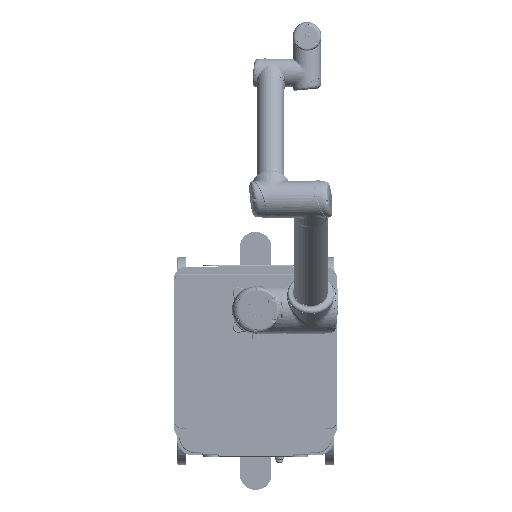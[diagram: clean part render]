
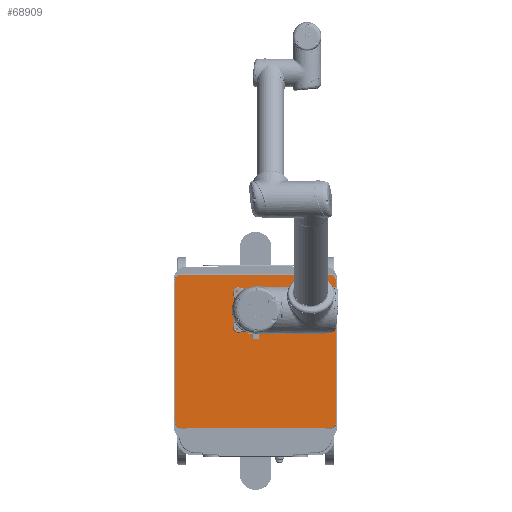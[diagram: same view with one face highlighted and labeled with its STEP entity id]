
A CAD part, top view. The second image highlights one B-rep face of the part: STEP entity #68909.
In plain terms, the highlighted planar face has unit normal (0, 0, 1).
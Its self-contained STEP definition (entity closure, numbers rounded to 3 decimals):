
#3721=CIRCLE('',#74034,18.);
#3725=CIRCLE('',#74040,18.);
#3729=CIRCLE('',#74046,18.);
#3732=CIRCLE('',#74051,18.);
#10866=FACE_OUTER_BOUND('',#15340,.T.);
#15340=EDGE_LOOP('',(#46157,#46158,#46159,#46160,#46161,#46162,#46163,#46164));
#20525=LINE('',#99605,#24129);
#20527=LINE('',#99618,#24131);
#20529=LINE('',#99630,#24133);
#20531=LINE('',#99642,#24135);
#24129=VECTOR('',#82358,10.);
#24131=VECTOR('',#82374,10.);
#24133=VECTOR('',#82388,10.);
#24135=VECTOR('',#82402,10.);
#27703=VERTEX_POINT('',#99602);
#27704=VERTEX_POINT('',#99604);
#27705=VERTEX_POINT('',#99608);
#27707=VERTEX_POINT('',#99614);
#27709=VERTEX_POINT('',#99620);
#27711=VERTEX_POINT('',#99626);
#27713=VERTEX_POINT('',#99632);
#27715=VERTEX_POINT('',#99638);
#34506=EDGE_CURVE('',#27703,#27704,#20525,.T.);
#34510=EDGE_CURVE('',#27704,#27705,#3721,.T.);
#34513=EDGE_CURVE('',#27705,#27707,#20527,.T.);
#34516=EDGE_CURVE('',#27707,#27709,#3725,.T.);
#34519=EDGE_CURVE('',#27709,#27711,#20529,.T.);
#34522=EDGE_CURVE('',#27711,#27713,#3729,.T.);
#34525=EDGE_CURVE('',#27713,#27715,#20531,.T.);
#34527=EDGE_CURVE('',#27715,#27703,#3732,.T.);
#46157=ORIENTED_EDGE('',*,*,#34506,.F.);
#46158=ORIENTED_EDGE('',*,*,#34527,.F.);
#46159=ORIENTED_EDGE('',*,*,#34525,.F.);
#46160=ORIENTED_EDGE('',*,*,#34522,.F.);
#46161=ORIENTED_EDGE('',*,*,#34519,.F.);
#46162=ORIENTED_EDGE('',*,*,#34516,.F.);
#46163=ORIENTED_EDGE('',*,*,#34513,.F.);
#46164=ORIENTED_EDGE('',*,*,#34510,.F.);
#63470=PLANE('',#74057);
#68909=ADVANCED_FACE('',(#10866),#63470,.T.);
#74034=AXIS2_PLACEMENT_3D('',#99612,#82367,#82368);
#74040=AXIS2_PLACEMENT_3D('',#99624,#82381,#82382);
#74046=AXIS2_PLACEMENT_3D('',#99636,#82395,#82396);
#74051=AXIS2_PLACEMENT_3D('',#99645,#82407,#82408);
#74057=AXIS2_PLACEMENT_3D('',#99656,#82423,#82424);
#82358=DIRECTION('',(-1.,0.,0.));
#82367=DIRECTION('center_axis',(0.,0.,
-1.));
#82368=DIRECTION('ref_axis',(-0.707,-0.707,0.));
#82374=DIRECTION('',(0.,1.,0.));
#82381=DIRECTION('center_axis',(0.,0.,
-1.));
#82382=DIRECTION('ref_axis',(-0.707,0.707,0.));
#82388=DIRECTION('',(1.,0.,0.));
#82395=DIRECTION('center_axis',(0.,0.,
-1.));
#82396=DIRECTION('ref_axis',(0.707,0.707,0.));
#82402=DIRECTION('',(0.,-1.,0.));
#82407=DIRECTION('center_axis',(0.,0.,
-1.));
#82408=DIRECTION('ref_axis',(0.707,-0.707,0.));
#82423=DIRECTION('center_axis',(0.,0.,
1.));
#82424=DIRECTION('ref_axis',(1.,0.,0.));
#99602=CARTESIAN_POINT('',(237.5,-239.,419.));
#99604=CARTESIAN_POINT('',(-237.5,-239.,419.));
#99605=CARTESIAN_POINT('',(118.75,-239.,419.));
#99608=CARTESIAN_POINT('',(-255.5,-221.,419.));
#99612=CARTESIAN_POINT('Origin',(-237.5,-221.,419.));
#99614=CARTESIAN_POINT('',(-255.5,231.,419.));
#99618=CARTESIAN_POINT('',(-255.5,-108.,419.));
#99620=CARTESIAN_POINT('',(-237.5,249.,419.));
#99624=CARTESIAN_POINT('Origin',(-237.5,231.,419.));
#99626=CARTESIAN_POINT('',(237.5,249.,419.));
#99630=CARTESIAN_POINT('',(-118.75,249.,419.));
#99632=CARTESIAN_POINT('',(255.5,231.,419.));
#99636=CARTESIAN_POINT('Origin',(237.5,231.,419.));
#99638=CARTESIAN_POINT('',(255.5,-221.,419.));
#99642=CARTESIAN_POINT('',(255.5,118.,419.));
#99645=CARTESIAN_POINT('Origin',(237.5,-221.,419.));
#99656=CARTESIAN_POINT('Origin',(0.,5.,
419.));
